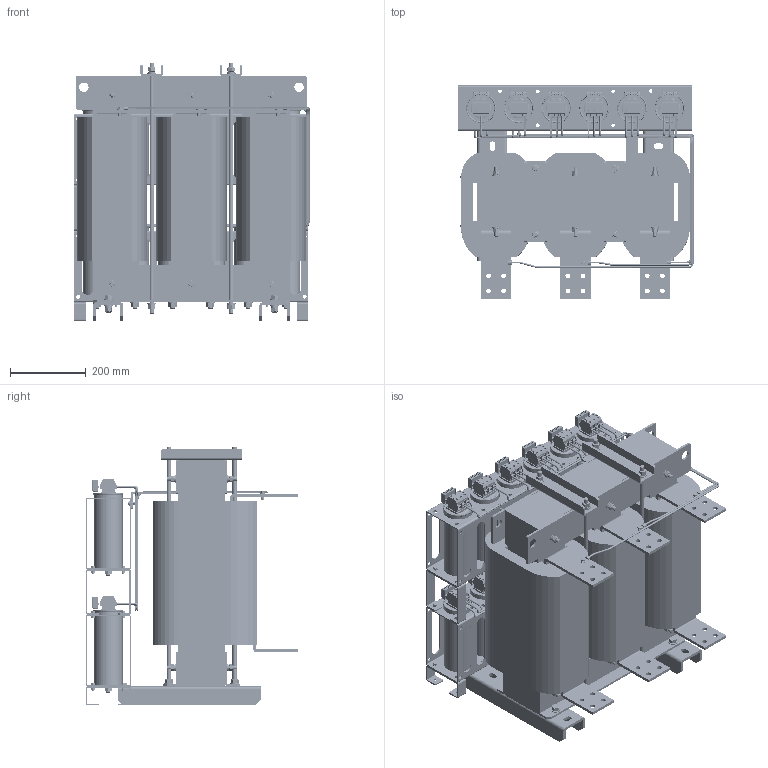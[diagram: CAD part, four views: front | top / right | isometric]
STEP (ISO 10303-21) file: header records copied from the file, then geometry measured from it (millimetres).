
FILE_DESCRIPTION (( 'STEP AP203' ), '1' );
FILE_NAME ('蔓躅漤铋 耔眢耥 翳朦蝠 _ ISINOF-450_820-4.STEP', '2026-07-21T07:52:21', ( '' ), ( '' ), 'SwSTEP 2.0', 'SolidWorks 2021', '' );
FILE_SCHEMA (( 'CONFIG_CONTROL_DESIGN' ));
Products named in the file (1): 蔓躅漤铋 耔眢耥 翳朦蝠 _ ISINOF-450_820-4
Bounding box: 622.98 x 564.01 x 685 mm (x, y, z)
Volume: 81695955.8 mm3; surface area: 7819845.9 mm2
Topology: 301 solids, 301 shells, 6911 faces, 18509 edges, 12253 vertices
Faces by surface type: plane 4480, cylinder 1978, cone 208, bspline 124, torus 121
Full cylindrical faces by diameter (mm): 5 x122, 5.053 x3, 6 x35, 6.3 x144, 6.45 x3, 6.5 x6, 7 x3, 7.47 x3, 8.422 x12, 9.55 x3, 10 x38, 10.106 x12, 10.75 x12, 10.833 x12, 12 x56, 12.9 x12, 13 x52, 15.917 x12, 19.1 x12, 20 x12, 24 x28, 25 x4, 73 x12, 76 x12, 79 x12, 80 x12
Entity records: 231041 total; most frequent: CARTESIAN_POINT 61848, ORIENTED_EDGE 34742, DIRECTION 33074, EDGE_CURVE 17371, VECTOR 12196, LINE 12196, VERTEX_POINT 12022, AXIS2_PLACEMENT_3D 10439
